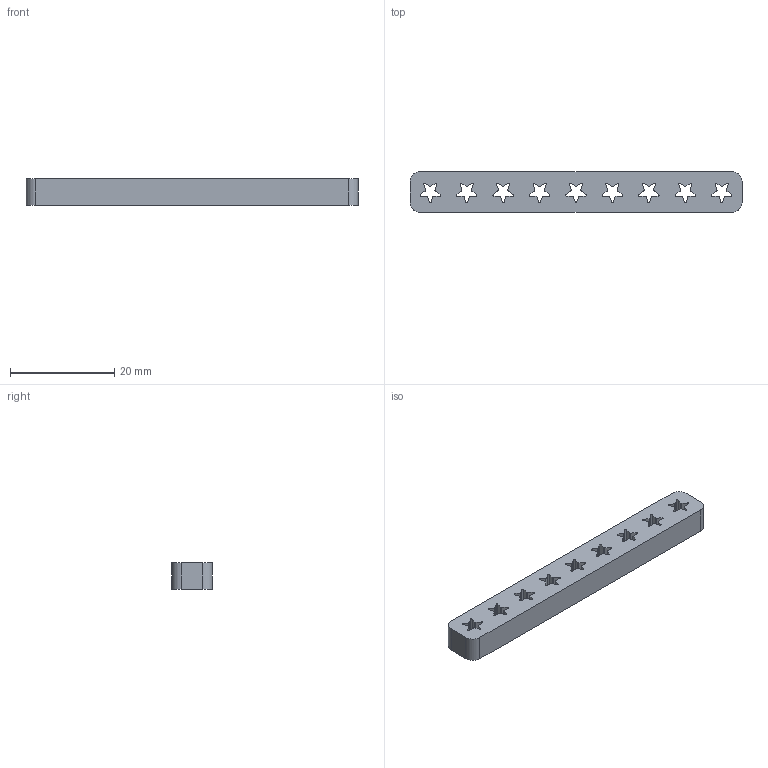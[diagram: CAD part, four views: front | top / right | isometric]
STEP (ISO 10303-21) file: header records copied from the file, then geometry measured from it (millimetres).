
FILE_DESCRIPTION(('CATIA V5 STEP Exchange','CAx-IF Rec.Pracs.--- Model Styling and Organization---1.4--- 2014-01-23'),'2;1');
FILE_NAME('D:\모델\플래그\플래그\일반\06.stp','2026-07-14T16:02:45+00:00',('none'),('none'),'CATIA Version 5-6 Release 2018','CATIA V5 STEP AP214','none');
FILE_SCHEMA(('AUTOMOTIVE_DESIGN { 1 0 10303 214 1 1 1 1 }'));
Length unit declared in the file: millimetre
Products named in the file (1): bulkhead11
Bounding box: 63.78 x 7.8 x 5 mm (x, y, z)
Volume: 2171.8 mm3; surface area: 2212.2 mm2
Topology: 1 solids, 1 shells, 190 faces, 564 edges, 376 vertices
Faces by surface type: plane 96, cylinder 94
Entity records: 6037 total; most frequent: ORIENTED_EDGE 1128, CARTESIAN_POINT 1078, DIRECTION 838, EDGE_CURVE 564, VECTOR 376, LINE 376, VERTEX_POINT 376, AXIS2_PLACEMENT_3D 326
